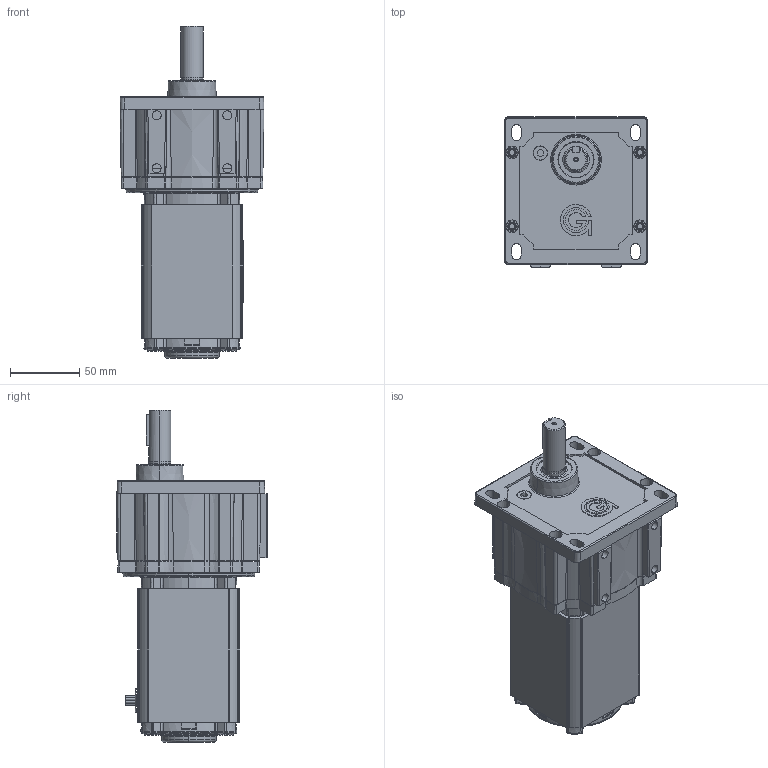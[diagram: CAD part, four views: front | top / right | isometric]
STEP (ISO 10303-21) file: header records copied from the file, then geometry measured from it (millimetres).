
FILE_DESCRIPTION (( 'STEP AP214' ), '1' );
FILE_NAME ('BL6520-PS2100.STEP', '2013-01-29T14:20:43', ( '' ), ( '' ), 'SwSTEP 2.0', 'SolidWorks 2013', '' );
FILE_SCHEMA (( 'AUTOMOTIVE_DESIGN' ));
Length unit declared in the file: inch
Products named in the file (1): BL6520-PS2100
Bounding box: 103.65 x 108.13 x 239 mm (x, y, z)
Surface area: 136365.9 mm2 (no closed solid volume)
Topology: 0 solids, 49 shells, 999 faces, 3228 edges, 2242 vertices
Faces by surface type: cylinder 294, plane 248, cone 208, torus 136, bspline 101, sphere 12
Entity records: 54333 total; most frequent: CARTESIAN_POINT 14023, DIRECTION 5683, ORIENTED_EDGE 5341, EDGE_CURVE 3220, VERTEX_POINT 2242, AXIS2_PLACEMENT_3D 2220, CIRCLE 1321, VECTOR 1243
